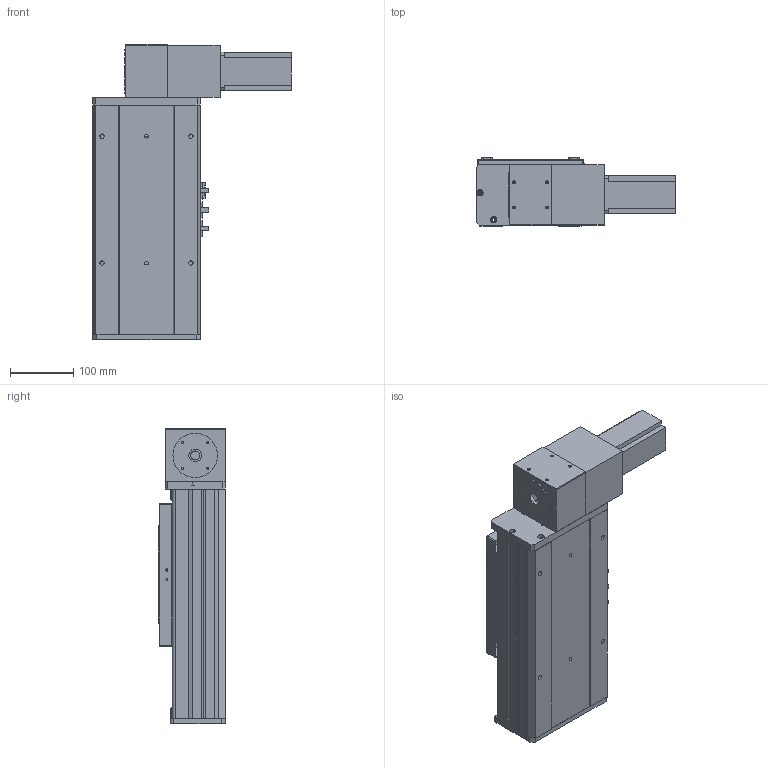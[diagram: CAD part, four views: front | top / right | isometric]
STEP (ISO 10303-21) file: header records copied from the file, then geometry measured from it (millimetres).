
FILE_DESCRIPTION (( 'STEP AP203' ), '1' );
FILE_NAME ('Y170CB-D105-S50-BR-P400W.STEP', '2020-02-20T07:59:57', ( '微软用户' ), ( '微软中国' ), 'SwSTEP 2.0', 'SolidWorks 2017', '' );
FILE_SCHEMA (( 'CONFIG_CONTROL_DESIGN' ));
Length unit declared in the file: millimetre
Products named in the file (16): 70C-雄赽釱-奻-; 70CB-耜裔啣-; 0C--雄赽釱俋欶-170; 70C--詩湍揤踡え-; 70CB-詩湍--; 70CB--耜裔; Y100-135俋离換覜ん--; Y170CB-陔俋离換覜結え---; B-源倛裔啣; Y1埴倛裔; san松下电机400不带刹车----; 70B喘謫眊----; 70CB-掛极-; 0B薊粣ん眊-400W--; Y170CB-D105-S50-BR-P400W; --70CB --喘謫眊楊擘啣-
Assembly tree (19 placements, depth 2):
  Y170CB-D105-S50-BR-P400W
    B-源倛裔啣
    san松下电机400不带刹车----
    70CB-掛极-
    --70CB --喘謫眊楊擘啣-
    70CB-耜裔啣-  x2
    70C--詩湍揤踡え-  x2
    70CB--耜裔
    70C-雄赽釱-奻-
    0C--雄赽釱俋欶-170
    70CB-詩湍--
    Y100-135俋离換覜ん--  x3
    Y170CB-陔俋离換覜結え---
    Y1埴倛裔
    70B喘謫眊----
    0B薊粣ん眊-400W--
Bounding box: 313.5 x 107 x 466 mm (x, y, z)
Volume: 3086739.8 mm3; surface area: 953785.2 mm2
Topology: 19 solids, 19 shells, 880 faces, 2306 edges, 1528 vertices
Faces by surface type: cylinder 434, plane 422, cone 24
Entity records: 27259 total; most frequent: CARTESIAN_POINT 5026, DIRECTION 4431, ORIENTED_EDGE 4094, EDGE_CURVE 2047, AXIS2_PLACEMENT_3D 1621, VERTEX_POINT 1358, LINE 1189, VECTOR 1189
